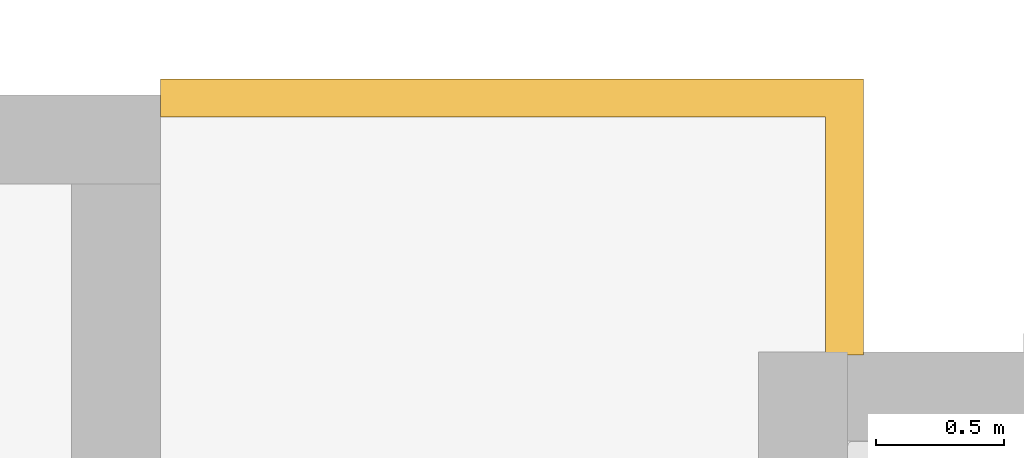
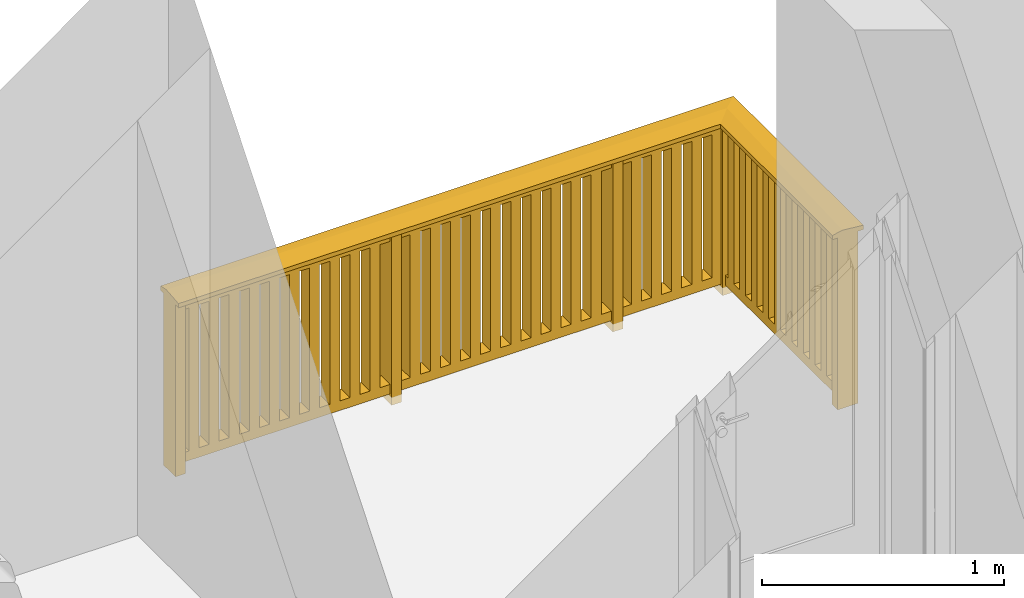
# One storey, part 35 of 44: 1 railing.
"""IFC2X3 building model written with IfcOpenShell, lengths in millimetres."""

import ifcopenshell
import ifcopenshell.guid

model = None  # the IFC model being written
_history = None  # IfcOwnerHistory: only IFC2X3 demands one
_inside = {}  # id of a spatial element -> (the spatial element, [elements in it])
_under = {}  # id of a project, library or spatial element -> (it, [spatial elements below it])
_declared = {}  # id of a project -> (the project, [libraries it declares])
_typed = {}  # id of a type object -> (the type object, [elements of that type])
_made_of = {}  # id of a material, layer set ... -> (it, [elements and type objects made of it])


def new_model(schema):
    """Start an empty IFC model of exactly this schema.

    Asked for "IFC4X3", IfcOpenShell would pick the latest addendum, in which some entities
    have other attributes; the version numbers below select the first issue.
    IFC2X3 requires an IfcOwnerHistory on every rooted entity: one is made here for all.
    """
    global model, _history
    if schema == "IFC4X3":
        model = ifcopenshell.file(schema_version=(4, 3, 0, 0))
    else:
        model = ifcopenshell.file(schema=schema)
    _inside.clear()
    _under.clear()
    _declared.clear()
    _typed.clear()
    _made_of.clear()
    _history = None
    if model.schema == "IFC2X3":
        org = make("IfcOrganization", Name="unknown")
        user = make(
            "IfcPersonAndOrganization",
            ThePerson=make("IfcPerson", FamilyName="unknown"),
            TheOrganization=org,
        )
        app = make(
            "IfcApplication",
            ApplicationDeveloper=org,
            Version="unknown",
            ApplicationFullName="unknown",
            ApplicationIdentifier="unknown",
        )
        _history = make(
            "IfcOwnerHistory",
            OwningUser=user,
            OwningApplication=app,
            ChangeAction="ADDED",
            CreationDate=0,
        )
    return model


def make(cls, **values):
    """One entity of the class cls with the attributes given. An attribute that is None is left unset."""
    return model.create_entity(
        cls, **{name: value for name, value in values.items() if value is not None}
    )


def entity(cls, *values):
    """Any entity or typed value of the class cls, its attributes in the order of the schema. None: left unset."""
    e = model.create_entity(cls)
    for i, value in enumerate(values):
        if value is not None:
            e[i] = value
    return e


def rooted(cls, **values):
    """An entity with a GlobalId (a new one), such as an element, a storey or a relation."""
    return make(cls, GlobalId=ifcopenshell.guid.new(), OwnerHistory=_history, **values)


def si_unit(unit_type, name, prefix=None):
    """IfcSIUnit, for example si_unit("LENGTHUNIT", "METRE", prefix="MILLI")."""
    return make("IfcSIUnit", UnitType=unit_type, Prefix=prefix, Name=name)


def converted_unit(unit_type, name, factor, base, dimensions=None, offset=None):
    """IfcConversionBasedUnit, such as the inch: factor (a typed value) times the base unit."""
    return make(
        "IfcConversionBasedUnit"
        if offset is None
        else "IfcConversionBasedUnitWithOffset",
        ConversionOffset=offset,
        Dimensions=None
        if dimensions is None
        else entity("IfcDimensionalExponents", *dimensions),
        UnitType=unit_type,
        Name=name,
        ConversionFactor=make(
            "IfcMeasureWithUnit", ValueComponent=factor, UnitComponent=base
        ),
    )


def assignment(units):
    """IfcUnitAssignment: the units of a project."""
    return None if units is None else make("IfcUnitAssignment", Units=units)


def point(xyz):
    """IfcCartesianPoint."""
    return None if xyz is None else make("IfcCartesianPoint", Coordinates=xyz)


def direction(xyz):
    """IfcDirection."""
    return None if xyz is None else make("IfcDirection", DirectionRatios=xyz)


def frame(location, z_axis=None, x_axis=None):
    """IfcAxis2Placement3D, a coordinate frame: its origin and axes. An axis left out is left unset."""
    return make(
        "IfcAxis2Placement3D",
        Location=point(location),
        Axis=direction(z_axis),
        RefDirection=direction(x_axis),
    )


def origin():
    """The frame at (0, 0, 0) with its axes left unset."""
    return frame((0.0, 0.0, 0.0))


def place(relative_to, where):
    """IfcLocalPlacement: puts the frame where relative to a parent placement (None: the world)."""
    return make(
        "IfcLocalPlacement", PlacementRelTo=relative_to, RelativePlacement=where
    )


def context(
    kind, dimensions, precision=None, world=None, true_north=None, identifier=None
):
    """IfcGeometricRepresentationContext, for example the 3D "Model" context."""
    return make(
        "IfcGeometricRepresentationContext",
        ContextIdentifier=identifier,
        ContextType=kind,
        CoordinateSpaceDimension=dimensions,
        Precision=precision,
        WorldCoordinateSystem=world,
        TrueNorth=true_north,
    )


def subcontext(parent, identifier, kind, view, scale=None):
    """IfcGeometricRepresentationSubContext, for example "Body" below "Model"."""
    return make(
        "IfcGeometricRepresentationSubContext",
        ContextIdentifier=identifier,
        ContextType=kind,
        ParentContext=parent,
        TargetScale=scale,
        TargetView=view,
    )


def project(units=None, contexts=None):
    """IfcProject with its units and contexts."""
    return rooted(
        "IfcProject",
        Name="project",
        RepresentationContexts=contexts,
        UnitsInContext=assignment(units),
    )


def spatial(cls, under=None, at=None, **own):
    """A site, building, storey or space (cls), placed at a placement, below another one or the project."""
    s = rooted(cls, ObjectPlacement=at, **own)
    if under is not None:
        _under.setdefault(under.id(), (under, []))[1].append(s)
    return s


def faces_of(points, faces, orient=None, outer=None):
    """IfcFace entities. A face is a list of loops; a loop is a list of indices into points, from 0.

    orient and outer hold one flag for each loop. By default every Orientation is true, the
    first loop of a face is its IfcFaceOuterBound and the others are IfcFaceBound.
    """
    made = []
    for i, loops in enumerate(faces):
        bounds = []
        for j, loop in enumerate(loops):
            is_outer = j == 0 if outer is None else outer[i][j]
            bounds.append(
                make(
                    "IfcFaceOuterBound" if is_outer else "IfcFaceBound",
                    Bound=make("IfcPolyLoop", Polygon=[points[k] for k in loop]),
                    Orientation=True if orient is None else orient[i][j],
                )
            )
        made.append(make("IfcFace", Bounds=bounds))
    return made


def faceted_brep(points, faces, orient=None, outer=None, voids=None):
    """IfcFacetedBrep: a solid bounded by flat faces; with voids (closed shells), ...WithVoids."""
    shared = [point(p) for p in points]
    hull = make("IfcClosedShell", CfsFaces=faces_of(shared, faces, orient, outer))
    if voids is None:
        return make("IfcFacetedBrep", Outer=hull)
    return make(
        "IfcFacetedBrepWithVoids",
        Outer=hull,
        Voids=[
            make(cls, CfsFaces=faces_of(shared, fs, o, b)) for cls, fs, o, b in voids
        ],
    )


def shape(context_of_items, identifier, shape_type, items):
    """IfcShapeRepresentation: the items that make up one representation, for example the "Body"."""
    return make(
        "IfcShapeRepresentation",
        ContextOfItems=context_of_items,
        RepresentationIdentifier=identifier,
        RepresentationType=shape_type,
        Items=items,
    )


def material(Name=None, Category=None):
    """IfcMaterial."""
    return make("IfcMaterial", Name=Name, Category=Category)


def made_of(thing, what):
    """Note that an element or type object is made of a material, layer set ...; save() writes the relation."""
    if what is not None:
        _made_of.setdefault(what.id(), (what, []))[1].append(thing)
    return thing


def type_object(cls, material=None, **own):
    """A type object (cls), such as IfcWallType, which elements share."""
    return made_of(rooted(cls, **own), material)


def element(
    cls,
    number,
    at=None,
    inside=None,
    cuts=None,
    type_object=None,
    material=None,
    context=None,
    identifier="Body",
    shape_type=None,
    held_by="IfcProductDefinitionShape",
    body=None,
    shapes=None,
    **own,
):
    """One element of the class cls, such as IfcWall. Its Tag is "e" and its number.

    at: its placement. inside: the storey or other place that contains it. cuts: it is an
    opening in that element (IfcRelVoidsElement). A single representation is given by context,
    identifier, shape_type and body (its items); several are given by shapes. held_by: the class
    of the entity that holds the representations. save() writes the other relations.
    """
    e = rooted(cls, Tag="e%d" % number, ObjectPlacement=at, **own)
    if body is not None:
        shapes = [shape(context, identifier, shape_type, body)]
    if shapes is not None:
        e.Representation = make(held_by, Representations=shapes)
    if inside is not None:
        _inside.setdefault(inside.id(), (inside, []))[1].append(e)
    if cuts is not None:
        rooted(
            "IfcRelVoidsElement", RelatingBuildingElement=cuts, RelatedOpeningElement=e
        )
    if type_object is not None:
        _typed.setdefault(type_object.id(), (type_object, []))[1].append(e)
    return made_of(e, material)


def aggregate(whole, parts):
    """IfcRelAggregates: a whole, such as a stair, and the parts it consists of."""
    return rooted("IfcRelAggregates", RelatingObject=whole, RelatedObjects=parts)


def save(model, path):
    """Write the relations noted so far, then the file.

    IfcRelAggregates (storeys below a building ...), IfcRelContainedInSpatialStructure (elements
    in a storey), IfcRelDefinesByType, IfcRelAssociatesMaterial and IfcRelDeclares: one each for
    every whole, place, type object, material and project.
    """
    for whole, parts in _under.values():
        aggregate(whole, parts)
    for where, things in _inside.values():
        rooted(
            "IfcRelContainedInSpatialStructure",
            RelatedElements=things,
            RelatingStructure=where,
        )
    for kind, things in _typed.values():
        rooted("IfcRelDefinesByType", RelatedObjects=things, RelatingType=kind)
    for what, things in _made_of.values():
        rooted("IfcRelAssociatesMaterial", RelatedObjects=things, RelatingMaterial=what)
    for by, libraries in _declared.values():
        rooted("IfcRelDeclares", RelatingContext=by, RelatedDefinitions=libraries)
    model.write(path)


model = new_model("IFC2X3")

# Units and contexts
model_context = context("Model", 3, precision=0.01, world=origin(), true_north=direction((0.0, 1.0)))
body_context = subcontext(model_context, "Body", "Model", "MODEL_VIEW")
ifc_project = project(units=[si_unit("LENGTHUNIT", "METRE", prefix="MILLI"), si_unit("AREAUNIT", "SQUARE_METRE"), si_unit("VOLUMEUNIT", "CUBIC_METRE"), converted_unit("PLANEANGLEUNIT", "DEGREE", entity("IfcPlaneAngleMeasure", 0.017453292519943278), si_unit("PLANEANGLEUNIT", "RADIAN"), dimensions=[0, 0, 0, 0, 0, 0, 0])], contexts=[model_context])

# Site, building, storey
site_placement = place(None, origin())
site = spatial("IfcSite", under=ifc_project, at=site_placement, Name="Default", CompositionType="ELEMENT")
building_placement = place(site_placement, origin())
building = spatial("IfcBuilding", under=site, at=building_placement, CompositionType="ELEMENT")
storey_placement = place(building_placement, frame((0.0, 0.0, 2681.0)))
storey = spatial("IfcBuildingStorey", under=building, at=storey_placement, Name="Et. 2", CompositionType="ELEMENT", Elevation=2681.0)

# Railing
ifc_material = material(Name="Rekkverk - Tre")
railing_type = type_object("IfcRailingType", Name="Railing:Balkong - Spiler Stående 900mm", PredefinedType="NOTDEFINED")
railing_placement = place(storey_placement, frame((25678.009586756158, 16072.180957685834, 0.0)))
element("IfcRailing", 1, at=railing_placement, inside=storey, type_object=railing_type, material=ifc_material, Name="Railing:Balkong - Spiler Stående 900mm", PredefinedType="NOTDEFINED", context=body_context, shape_type="Brep", body=[
    faceted_brep([(2697.5000000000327, 64.0, 820.0), (2697.5000000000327, 64.0, 98.0), (2624.5000000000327, 64.0, 98.0), (2624.5000000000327, 64.0, 820.0), (2624.5000000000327, 16.0, 98.0), (2624.5000000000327, 16.0, 820.0), (2697.5000000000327, 16.0, 98.0), (2697.5000000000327, 16.0, 820.0)], [[[0, 1, 2, 3]], [[3, 2, 4, 5]], [[5, 4, 6, 7]], [[1, 0, 7, 6]], [[0, 3, 5, 7]], [[2, 1, 6, 4]]]),
    faceted_brep([(2697.5000000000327, 160.0, 820.0), (2697.5000000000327, 160.0, 98.0), (2624.5000000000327, 160.0, 98.0), (2624.5000000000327, 160.0, 820.0), (2624.5000000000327, 112.0, 98.0), (2624.5000000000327, 112.0, 820.0), (2697.5000000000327, 112.0, 98.0), (2697.5000000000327, 112.0, 820.0)], [[[0, 1, 2, 3]], [[3, 2, 4, 5]], [[5, 4, 6, 7]], [[1, 0, 7, 6]], [[0, 3, 5, 7]], [[2, 1, 6, 4]]]),
    faceted_brep([(2697.5000000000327, 256.0, 820.0), (2697.5000000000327, 256.0, 98.0), (2624.5000000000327, 256.0, 98.0), (2624.5000000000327, 256.0, 820.0), (2624.5000000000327, 208.0, 98.0), (2624.5000000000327, 208.0, 820.0), (2697.5000000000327, 208.0, 98.0), (2697.5000000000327, 208.0, 820.0)], [[[0, 1, 2, 3]], [[3, 2, 4, 5]], [[5, 4, 6, 7]], [[1, 0, 7, 6]], [[0, 3, 5, 7]], [[2, 1, 6, 4]]]),
    faceted_brep([(2697.5000000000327, 352.0, 820.0), (2697.5000000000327, 352.0, 98.0), (2624.5000000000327, 352.0, 98.0), (2624.5000000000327, 352.0, 820.0), (2624.5000000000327, 304.0, 98.0), (2624.5000000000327, 304.0, 820.0), (2697.5000000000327, 304.0, 98.0), (2697.5000000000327, 304.0, 820.0)], [[[0, 1, 2, 3]], [[3, 2, 4, 5]], [[5, 4, 6, 7]], [[1, 0, 7, 6]], [[0, 3, 5, 7]], [[2, 1, 6, 4]]]),
    faceted_brep([(2697.5000000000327, 448.0, 820.0), (2697.5000000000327, 448.0, 98.0), (2624.5000000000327, 448.0, 98.0), (2624.5000000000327, 448.0, 820.0), (2624.5000000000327, 400.0, 98.0), (2624.5000000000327, 400.0, 820.0), (2697.5000000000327, 400.0, 98.0), (2697.5000000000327, 400.0, 820.0)], [[[0, 1, 2, 3]], [[3, 2, 4, 5]], [[5, 4, 6, 7]], [[1, 0, 7, 6]], [[0, 3, 5, 7]], [[2, 1, 6, 4]]]),
    faceted_brep([(2697.5000000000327, 544.0, 820.0), (2697.5000000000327, 544.0, 98.0), (2624.5000000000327, 544.0, 98.0), (2624.5000000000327, 544.0, 820.0), (2624.5000000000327, 496.0, 98.0), (2624.5000000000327, 496.0, 820.0), (2697.5000000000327, 496.0, 98.0), (2697.5000000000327, 496.0, 820.0)], [[[0, 1, 2, 3]], [[3, 2, 4, 5]], [[5, 4, 6, 7]], [[1, 0, 7, 6]], [[0, 3, 5, 7]], [[2, 1, 6, 4]]]),
    faceted_brep([(2697.5000000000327, 640.0, 820.0), (2697.5000000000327, 640.0, 98.0), (2624.5000000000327, 640.0, 98.0), (2624.5000000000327, 640.0, 820.0), (2624.5000000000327, 592.0, 98.0), (2624.5000000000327, 592.0, 820.0), (2697.5000000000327, 592.0, 98.0), (2697.5000000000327, 592.0, 820.0)], [[[0, 1, 2, 3]], [[3, 2, 4, 5]], [[5, 4, 6, 7]], [[1, 0, 7, 6]], [[0, 3, 5, 7]], [[2, 1, 6, 4]]]),
    faceted_brep([(2697.5000000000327, 736.0, 820.0), (2697.5000000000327, 736.0, 98.0), (2624.5000000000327, 736.0, 98.0), (2624.5000000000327, 736.0, 820.0), (2624.5000000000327, 688.0, 98.0), (2624.5000000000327, 688.0, 820.0), (2697.5000000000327, 688.0, 98.0), (2697.5000000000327, 688.0, 820.0)], [[[0, 1, 2, 3]], [[3, 2, 4, 5]], [[5, 4, 6, 7]], [[1, 0, 7, 6]], [[0, 3, 5, 7]], [[2, 1, 6, 4]]]),
    faceted_brep([(2697.5000000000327, 832.0, 820.0), (2697.5000000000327, 832.0, 98.0), (2624.5000000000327, 832.0, 98.0), (2624.5000000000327, 832.0, 820.0), (2624.5000000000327, 784.0, 98.0), (2624.5000000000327, 784.0, 820.0), (2697.5000000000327, 784.0, 98.0), (2697.5000000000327, 784.0, 820.0)], [[[0, 1, 2, 3]], [[3, 2, 4, 5]], [[5, 4, 6, 7]], [[1, 0, 7, 6]], [[0, 3, 5, 7]], [[2, 1, 6, 4]]]),
    faceted_brep([(2697.5000000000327, 928.0, 820.0), (2697.5000000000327, 928.0, 98.0), (2624.5000000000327, 928.0, 98.0), (2624.5000000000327, 928.0, 820.0), (2624.5000000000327, 880.0, 98.0), (2624.5000000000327, 880.0, 820.0), (2697.5000000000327, 880.0, 98.0), (2697.5000000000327, 880.0, 820.0)], [[[0, 1, 2, 3]], [[3, 2, 4, 5]], [[5, 4, 6, 7]], [[1, 0, 7, 6]], [[0, 3, 5, 7]], [[2, 1, 6, 4]]]),
    faceted_brep([(2568.0, 1036.5000000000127, 820.0), (2568.0, 1036.5000000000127, 98.0), (2568.0, 963.5000000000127, 98.0), (2568.0, 963.5000000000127, 820.0), (2616.0, 963.5000000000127, 98.0), (2616.0, 963.5000000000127, 820.0), (2616.0, 1036.5000000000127, 98.0), (2616.0, 1036.5000000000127, 820.0)], [[[0, 1, 2, 3]], [[3, 2, 4, 5]], [[5, 4, 6, 7]], [[1, 0, 7, 6]], [[0, 3, 5, 7]], [[2, 1, 6, 4]]]),
    faceted_brep([(2472.0, 1036.5000000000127, 820.0), (2472.0, 1036.5000000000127, 98.0), (2472.0, 963.5000000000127, 98.0), (2472.0, 963.5000000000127, 820.0), (2520.0, 963.5000000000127, 98.0), (2520.0, 963.5000000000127, 820.0), (2520.0, 1036.5000000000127, 98.0), (2520.0, 1036.5000000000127, 820.0)], [[[0, 1, 2, 3]], [[3, 2, 4, 5]], [[5, 4, 6, 7]], [[1, 0, 7, 6]], [[0, 3, 5, 7]], [[2, 1, 6, 4]]]),
    faceted_brep([(2376.0, 1036.5000000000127, 820.0), (2376.0, 1036.5000000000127, 98.0), (2376.0, 963.5000000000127, 98.0), (2376.0, 963.5000000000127, 820.0), (2424.0, 963.5000000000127, 98.0), (2424.0, 963.5000000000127, 820.0), (2424.0, 1036.5000000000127, 98.0), (2424.0, 1036.5000000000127, 820.0)], [[[0, 1, 2, 3]], [[3, 2, 4, 5]], [[5, 4, 6, 7]], [[1, 0, 7, 6]], [[0, 3, 5, 7]], [[2, 1, 6, 4]]]),
    faceted_brep([(2280.0, 1036.5000000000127, 820.0), (2280.0, 1036.5000000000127, 98.0), (2280.0, 963.5000000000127, 98.0), (2280.0, 963.5000000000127, 820.0), (2328.0, 963.5000000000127, 98.0), (2328.0, 963.5000000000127, 820.0), (2328.0, 1036.5000000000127, 98.0), (2328.0, 1036.5000000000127, 820.0)], [[[0, 1, 2, 3]], [[3, 2, 4, 5]], [[5, 4, 6, 7]], [[1, 0, 7, 6]], [[0, 3, 5, 7]], [[2, 1, 6, 4]]]),
    faceted_brep([(2184.0, 1036.5000000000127, 820.0), (2184.0, 1036.5000000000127, 98.0), (2184.0, 963.5000000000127, 98.0), (2184.0, 963.5000000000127, 820.0), (2232.0, 963.5000000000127, 98.0), (2232.0, 963.5000000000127, 820.0), (2232.0, 1036.5000000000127, 98.0), (2232.0, 1036.5000000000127, 820.0)], [[[0, 1, 2, 3]], [[3, 2, 4, 5]], [[5, 4, 6, 7]], [[1, 0, 7, 6]], [[0, 3, 5, 7]], [[2, 1, 6, 4]]]),
    faceted_brep([(2088.0, 1049.0, 868.0), (2088.0, 1049.0, 0.0), (2088.0, 951.0, 0.0), (2088.0, 951.0, 868.0), (2136.0, 951.0, 0.0), (2136.0, 951.0, 868.0), (2136.0, 1049.0, 0.0), (2136.0, 1049.0, 868.0)], [[[0, 1, 2, 3]], [[3, 2, 4, 5]], [[5, 4, 6, 7]], [[1, 0, 7, 6]], [[0, 3, 5, 7]], [[2, 1, 6, 4]]]),
    faceted_brep([(1992.0, 1036.5000000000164, 820.0), (1992.0, 1036.5000000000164, 98.0), (1992.0, 963.5000000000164, 98.0), (1992.0, 963.5000000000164, 820.0), (2040.0, 963.5000000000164, 98.0), (2040.0, 963.5000000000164, 820.0), (2040.0, 1036.5000000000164, 98.0), (2040.0, 1036.5000000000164, 820.0)], [[[0, 1, 2, 3]], [[3, 2, 4, 5]], [[5, 4, 6, 7]], [[1, 0, 7, 6]], [[0, 3, 5, 7]], [[2, 1, 6, 4]]]),
    faceted_brep([(1896.0, 1036.5000000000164, 820.0), (1896.0, 1036.5000000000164, 98.0), (1896.0, 963.5000000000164, 98.0), (1896.0, 963.5000000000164, 820.0), (1944.0, 963.5000000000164, 98.0), (1944.0, 963.5000000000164, 820.0), (1944.0, 1036.5000000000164, 98.0), (1944.0, 1036.5000000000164, 820.0)], [[[0, 1, 2, 3]], [[3, 2, 4, 5]], [[5, 4, 6, 7]], [[1, 0, 7, 6]], [[0, 3, 5, 7]], [[2, 1, 6, 4]]]),
    faceted_brep([(1800.0, 1036.5000000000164, 820.0), (1800.0, 1036.5000000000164, 98.0), (1800.0, 963.5000000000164, 98.0), (1800.0, 963.5000000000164, 820.0), (1848.0, 963.5000000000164, 98.0), (1848.0, 963.5000000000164, 820.0), (1848.0, 1036.5000000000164, 98.0), (1848.0, 1036.5000000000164, 820.0)], [[[0, 1, 2, 3]], [[3, 2, 4, 5]], [[5, 4, 6, 7]], [[1, 0, 7, 6]], [[0, 3, 5, 7]], [[2, 1, 6, 4]]]),
    faceted_brep([(1704.0, 1036.5000000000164, 820.0), (1704.0, 1036.5000000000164, 98.0), (1704.0, 963.5000000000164, 98.0), (1704.0, 963.5000000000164, 820.0), (1752.0, 963.5000000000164, 98.0), (1752.0, 963.5000000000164, 820.0), (1752.0, 1036.5000000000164, 98.0), (1752.0, 1036.5000000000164, 820.0)], [[[0, 1, 2, 3]], [[3, 2, 4, 5]], [[5, 4, 6, 7]], [[1, 0, 7, 6]], [[0, 3, 5, 7]], [[2, 1, 6, 4]]]),
    faceted_brep([(1608.0, 1036.5000000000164, 820.0), (1608.0, 1036.5000000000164, 98.0), (1608.0, 963.5000000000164, 98.0), (1608.0, 963.5000000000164, 820.0), (1656.0, 963.5000000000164, 98.0), (1656.0, 963.5000000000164, 820.0), (1656.0, 1036.5000000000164, 98.0), (1656.0, 1036.5000000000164, 820.0)], [[[0, 1, 2, 3]], [[3, 2, 4, 5]], [[5, 4, 6, 7]], [[1, 0, 7, 6]], [[0, 3, 5, 7]], [[2, 1, 6, 4]]]),
    faceted_brep([(1512.0, 1036.5000000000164, 820.0), (1512.0, 1036.5000000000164, 98.0), (1512.0, 963.5000000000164, 98.0), (1512.0, 963.5000000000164, 820.0), (1560.0, 963.5000000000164, 98.0), (1560.0, 963.5000000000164, 820.0), (1560.0, 1036.5000000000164, 98.0), (1560.0, 1036.5000000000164, 820.0)], [[[0, 1, 2, 3]], [[3, 2, 4, 5]], [[5, 4, 6, 7]], [[1, 0, 7, 6]], [[0, 3, 5, 7]], [[2, 1, 6, 4]]]),
    faceted_brep([(1416.0, 1036.5000000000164, 820.0), (1416.0, 1036.5000000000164, 98.0), (1416.0, 963.5000000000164, 98.0), (1416.0, 963.5000000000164, 820.0), (1464.0, 963.5000000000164, 98.0), (1464.0, 963.5000000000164, 820.0), (1464.0, 1036.5000000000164, 98.0), (1464.0, 1036.5000000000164, 820.0)], [[[0, 1, 2, 3]], [[3, 2, 4, 5]], [[5, 4, 6, 7]], [[1, 0, 7, 6]], [[0, 3, 5, 7]], [[2, 1, 6, 4]]]),
    faceted_brep([(1320.0, 1036.5000000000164, 820.0), (1320.0, 1036.5000000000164, 98.0), (1320.0, 963.5000000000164, 98.0), (1320.0, 963.5000000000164, 820.0), (1368.0, 963.5000000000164, 98.0), (1368.0, 963.5000000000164, 820.0), (1368.0, 1036.5000000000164, 98.0), (1368.0, 1036.5000000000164, 820.0)], [[[0, 1, 2, 3]], [[3, 2, 4, 5]], [[5, 4, 6, 7]], [[1, 0, 7, 6]], [[0, 3, 5, 7]], [[2, 1, 6, 4]]]),
    faceted_brep([(1224.0, 1036.5000000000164, 820.0), (1224.0, 1036.5000000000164, 98.0), (1224.0, 963.5000000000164, 98.0), (1224.0, 963.5000000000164, 820.0), (1272.0, 963.5000000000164, 98.0), (1272.0, 963.5000000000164, 820.0), (1272.0, 1036.5000000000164, 98.0), (1272.0, 1036.5000000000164, 820.0)], [[[0, 1, 2, 3]], [[3, 2, 4, 5]], [[5, 4, 6, 7]], [[1, 0, 7, 6]], [[0, 3, 5, 7]], [[2, 1, 6, 4]]]),
    faceted_brep([(1128.0, 1036.5000000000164, 820.0), (1128.0, 1036.5000000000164, 98.0), (1128.0, 963.5000000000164, 98.0), (1128.0, 963.5000000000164, 820.0), (1176.0, 963.5000000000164, 98.0), (1176.0, 963.5000000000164, 820.0), (1176.0, 1036.5000000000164, 98.0), (1176.0, 1036.5000000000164, 820.0)], [[[0, 1, 2, 3]], [[3, 2, 4, 5]], [[5, 4, 6, 7]], [[1, 0, 7, 6]], [[0, 3, 5, 7]], [[2, 1, 6, 4]]]),
    faceted_brep([(1032.0, 1049.0, 868.0), (1032.0, 1049.0, 0.0), (1032.0, 951.0, 0.0), (1032.0, 951.0, 868.0), (1080.0, 951.0, 0.0), (1080.0, 951.0, 868.0), (1080.0, 1049.0, 0.0), (1080.0, 1049.0, 868.0)], [[[0, 1, 2, 3]], [[3, 2, 4, 5]], [[5, 4, 6, 7]], [[1, 0, 7, 6]], [[0, 3, 5, 7]], [[2, 1, 6, 4]]]),
    faceted_brep([(936.0, 1036.5000000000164, 820.0), (936.0, 1036.5000000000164, 98.0), (936.0, 963.5000000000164, 98.0), (936.0, 963.5000000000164, 820.0), (984.0, 963.5000000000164, 98.0), (984.0, 963.5000000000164, 820.0), (984.0, 1036.5000000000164, 98.0), (984.0, 1036.5000000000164, 820.0)], [[[0, 1, 2, 3]], [[3, 2, 4, 5]], [[5, 4, 6, 7]], [[1, 0, 7, 6]], [[0, 3, 5, 7]], [[2, 1, 6, 4]]]),
    faceted_brep([(840.0, 1036.5000000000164, 820.0), (840.0, 1036.5000000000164, 98.0), (840.0, 963.5000000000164, 98.0), (840.0, 963.5000000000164, 820.0), (888.0, 963.5000000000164, 98.0), (888.0, 963.5000000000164, 820.0), (888.0, 1036.5000000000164, 98.0), (888.0, 1036.5000000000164, 820.0)], [[[0, 1, 2, 3]], [[3, 2, 4, 5]], [[5, 4, 6, 7]], [[1, 0, 7, 6]], [[0, 3, 5, 7]], [[2, 1, 6, 4]]]),
    faceted_brep([(744.0, 1036.5000000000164, 820.0), (744.0, 1036.5000000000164, 98.0), (744.0, 963.5000000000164, 98.0), (744.0, 963.5000000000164, 820.0), (792.0, 963.5000000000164, 98.0), (792.0, 963.5000000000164, 820.0), (792.0, 1036.5000000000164, 98.0), (792.0, 1036.5000000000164, 820.0)], [[[0, 1, 2, 3]], [[3, 2, 4, 5]], [[5, 4, 6, 7]], [[1, 0, 7, 6]], [[0, 3, 5, 7]], [[2, 1, 6, 4]]]),
    faceted_brep([(648.0, 1036.50000000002, 820.0), (648.0, 1036.50000000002, 98.0), (648.0, 963.50000000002, 98.0), (648.0, 963.50000000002, 820.0), (696.0, 963.50000000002, 98.0), (696.0, 963.50000000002, 820.0), (696.0, 1036.50000000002, 98.0), (696.0, 1036.50000000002, 820.0)], [[[0, 1, 2, 3]], [[3, 2, 4, 5]], [[5, 4, 6, 7]], [[1, 0, 7, 6]], [[0, 3, 5, 7]], [[2, 1, 6, 4]]]),
    faceted_brep([(552.0, 1036.50000000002, 820.0), (552.0, 1036.50000000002, 98.0), (552.0, 963.50000000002, 98.0), (552.0, 963.50000000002, 820.0), (600.0, 963.50000000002, 98.0), (600.0, 963.50000000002, 820.0), (600.0, 1036.50000000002, 98.0), (600.0, 1036.50000000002, 820.0)], [[[0, 1, 2, 3]], [[3, 2, 4, 5]], [[5, 4, 6, 7]], [[1, 0, 7, 6]], [[0, 3, 5, 7]], [[2, 1, 6, 4]]]),
    faceted_brep([(456.0, 1036.50000000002, 820.0), (456.0, 1036.50000000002, 98.0), (456.0, 963.50000000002, 98.0), (456.0, 963.50000000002, 820.0), (504.0, 963.50000000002, 98.0), (504.0, 963.50000000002, 820.0), (504.0, 1036.50000000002, 98.0), (504.0, 1036.50000000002, 820.0)], [[[0, 1, 2, 3]], [[3, 2, 4, 5]], [[5, 4, 6, 7]], [[1, 0, 7, 6]], [[0, 3, 5, 7]], [[2, 1, 6, 4]]]),
    faceted_brep([(360.0, 1036.50000000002, 820.0), (360.0, 1036.50000000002, 98.0), (360.0, 963.50000000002, 98.0), (360.0, 963.50000000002, 820.0), (408.0, 963.50000000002, 98.0), (408.0, 963.50000000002, 820.0), (408.0, 1036.50000000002, 98.0), (408.0, 1036.50000000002, 820.0)], [[[0, 1, 2, 3]], [[3, 2, 4, 5]], [[5, 4, 6, 7]], [[1, 0, 7, 6]], [[0, 3, 5, 7]], [[2, 1, 6, 4]]]),
    faceted_brep([(264.0, 1036.50000000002, 820.0), (264.0, 1036.50000000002, 98.0), (264.0, 963.50000000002, 98.0), (264.0, 963.50000000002, 820.0), (312.0, 963.50000000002, 98.0), (312.0, 963.50000000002, 820.0), (312.0, 1036.50000000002, 98.0), (312.0, 1036.50000000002, 820.0)], [[[0, 1, 2, 3]], [[3, 2, 4, 5]], [[5, 4, 6, 7]], [[1, 0, 7, 6]], [[0, 3, 5, 7]], [[2, 1, 6, 4]]]),
    faceted_brep([(168.0, 1036.50000000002, 820.0), (168.0, 1036.50000000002, 98.0), (168.0, 963.50000000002, 98.0), (168.0, 963.50000000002, 820.0), (216.0, 963.50000000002, 98.0), (216.0, 963.50000000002, 820.0), (216.0, 1036.50000000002, 98.0), (216.0, 1036.50000000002, 820.0)], [[[0, 1, 2, 3]], [[3, 2, 4, 5]], [[5, 4, 6, 7]], [[1, 0, 7, 6]], [[0, 3, 5, 7]], [[2, 1, 6, 4]]]),
    faceted_brep([(72.0, 1036.50000000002, 820.0), (72.0, 1036.50000000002, 98.0), (72.0, 963.50000000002, 98.0), (72.0, 963.50000000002, 820.0), (120.0, 963.50000000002, 98.0), (120.0, 963.50000000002, 820.0), (120.0, 1036.50000000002, 98.0), (120.0, 1036.50000000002, 820.0)], [[[0, 1, 2, 3]], [[3, 2, 4, 5]], [[5, 4, 6, 7]], [[1, 0, 7, 6]], [[0, 3, 5, 7]], [[2, 1, 6, 4]]]),
    faceted_brep([(2612.0, 1049.0, 868.0), (2612.0, 1049.0, 0.0), (2612.0, 951.0, 0.0), (2612.0, 951.0, 868.0), (2710.0, 951.0, 0.0), (2710.0, 951.0, 868.0), (2710.0, 1049.0, 0.0), (2710.0, 1049.0, 868.0)], [[[0, 1, 2, 3]], [[3, 2, 4, 5]], [[5, 4, 6, 7]], [[1, 0, 7, 6]], [[0, 3, 5, 7]], [[2, 1, 6, 4]]]),
    faceted_brep([(2710.0, 48.0, 868.0), (2710.0, 48.0, 0.0), (2612.0, 48.0, 0.0), (2612.0, 48.0, 868.0), (2612.0, 0.0, 0.0), (2612.0, 0.0, 868.0), (2710.0, 0.0, 0.0), (2710.0, 0.0, 868.0)], [[[0, 1, 2, 3]], [[3, 2, 4, 5]], [[5, 4, 6, 7]], [[1, 0, 7, 6]], [[0, 3, 5, 7]], [[2, 1, 6, 4]]]),
    faceted_brep([(0.0, 1049.0, 868.0), (0.0, 1049.0, 0.0), (0.0, 951.0, 0.0), (0.0, 951.0, 868.0), (48.0, 951.0, 0.0), (48.0, 951.0, 868.0), (48.0, 1049.0, 0.0), (48.0, 1049.0, 868.0)], [[[0, 1, 2, 3]], [[3, 2, 4, 5]], [[5, 4, 6, 7]], [[1, 0, 7, 6]], [[0, 3, 5, 7]], [[2, 1, 6, 4]]]),
    faceted_brep([(0.0, 963.5000000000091, 868.0), (0.0, 1036.500000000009, 868.0), (0.0, 1036.500000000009, 820.0), (0.0, 963.5000000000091, 820.0), (2624.500000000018, 963.4999999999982, 868.0), (2697.500000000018, 1036.5000000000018, 868.0), (2697.500000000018, 1036.5000000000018, 820.0), (2624.500000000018, 963.4999999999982, 820.0), (2624.500000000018, 0.0, 868.0), (2624.500000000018, 0.0, 820.0), (2697.500000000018, 0.0, 820.0), (2697.500000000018, 0.0, 868.0)], [[[0, 1, 2, 3]], [[1, 0, 4, 5]], [[2, 1, 5, 6]], [[3, 2, 6, 7]], [[0, 3, 7, 4]], [[8, 9, 10, 11]], [[5, 4, 8, 11]], [[6, 5, 11, 10]], [[7, 6, 10, 9]], [[4, 7, 9, 8]]]),
    faceted_brep([(0.0, 963.5000000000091, 98.0), (0.0, 1036.500000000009, 98.0), (0.0, 1036.500000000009, 50.0), (0.0, 963.5000000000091, 50.0), (2624.500000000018, 963.4999999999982, 98.0), (2697.500000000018, 1036.5000000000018, 98.0), (2697.500000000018, 1036.5000000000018, 50.0), (2624.500000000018, 963.4999999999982, 50.0), (2624.500000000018, 0.0, 98.0), (2624.500000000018, 0.0, 50.0), (2697.500000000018, 0.0, 50.0), (2697.500000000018, 0.0, 98.0)], [[[0, 1, 2, 3]], [[1, 0, 4, 5]], [[2, 1, 5, 6]], [[3, 2, 6, 7]], [[0, 3, 7, 4]], [[8, 9, 10, 11]], [[5, 4, 8, 11]], [[6, 5, 11, 10]], [[7, 6, 10, 9]], [[4, 7, 9, 8]]]),
    faceted_brep([(0.0, 926.0, 868.0), (0.0, 926.0, 889.3333333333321), (0.0, 975.484494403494, 894.0704619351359), (0.0, 1024.9689888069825, 898.8075905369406), (0.0, 1074.0, 889.3333333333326), (0.0, 1074.0, 868.0), (2735.0, 1074.0, 868.0), (2735.0, 0.0, 868.0), (2587.0, 0.0, 868.0), (2587.0, 926.0, 868.0), (2587.0, 926.0, 889.3333333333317), (2661.0, 1000.0, 900.0), (2735.0, 1074.0, 889.3333333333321), (2636.031011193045, 0.0, 898.8075905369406), (2587.0, 0.0, 889.3333333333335), (2735.0, 0.0, 889.3333333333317), (2685.5155055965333, 0.0, 894.0704619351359)], [[[0, 1, 2, 3, 4, 5]], [[0, 5, 6, 7, 8, 9]], [[1, 0, 9, 10]], [[11, 2, 10]], [[2, 1, 10]], [[3, 12, 4]], [[12, 3, 11]], [[11, 3, 2]], [[5, 4, 12, 6]], [[13, 14, 8, 7, 15, 16]], [[10, 9, 8, 14]], [[10, 14, 13]], [[10, 13, 11]], [[12, 11, 16]], [[16, 15, 12]], [[11, 13, 16]], [[6, 12, 15, 7]]]),
])

save(model, "model.ifc")
